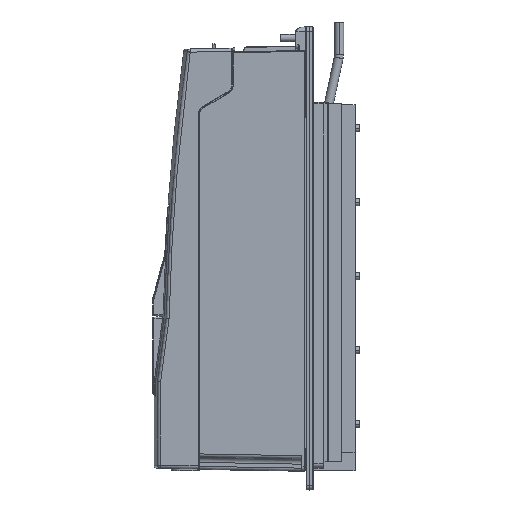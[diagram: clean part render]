
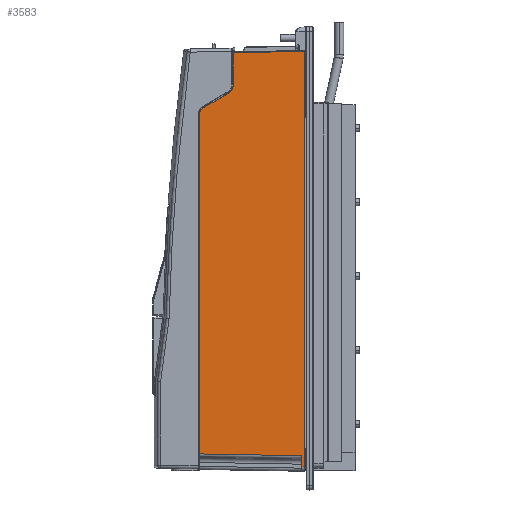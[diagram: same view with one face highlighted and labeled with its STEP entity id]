
A CAD part, left-side view. The second image highlights one B-rep face of the part: STEP entity #3583.
In plain terms, the highlighted planar face has unit normal (-1, 0.018, 0) as drawn and (1, 0.018, 0) by its records, which use the part's own axes.
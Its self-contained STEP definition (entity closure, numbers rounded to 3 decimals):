
#1871 = EDGE_CURVE ( 'NONE', #24986, #71526, #39627, .T. ) ;
#1935 = CARTESIAN_POINT ( 'NONE',  ( 121.15, 120., 471. ) ) ;
#3583 = ADVANCED_FACE ( 'NONE', ( #67645 ), #44236, .F. ) ;
#4487 = CARTESIAN_POINT ( 'NONE',  ( 121.834, 81.804, 41.46 ) ) ;
#9211 = DIRECTION ( 'NONE',  ( -1., -0.018, 0. ) ) ;
#9447 = DIRECTION ( 'NONE',  ( 0., 0., 1. ) ) ;
#12050 = ORIENTED_EDGE ( 'NONE', *, *, #77654, .T. ) ;
#12346 = CARTESIAN_POINT ( 'NONE',  ( 121.834, 81.804, 37.726 ) ) ;
#12573 = DIRECTION ( 'NONE',  ( 0., 0., 1. ) ) ;
#12844 = CARTESIAN_POINT ( 'NONE',  ( 121.834, 81.804, 37.726 ) ) ;
#13945 = CARTESIAN_POINT ( 'NONE',  ( 121.743, 86.904, 46.56 ) ) ;
#14174 = LINE ( 'NONE', #39776, #67352 ) ;
#15056 = EDGE_CURVE ( 'NONE', #71001, #24986, #107118, .T. ) ;
#15152 = CARTESIAN_POINT ( 'NONE',  ( 121.84, 81.5, 37.726 ) ) ;
#17793 = LINE ( 'NONE', #33396, #96337 ) ;
#20299 = EDGE_CURVE ( 'NONE', #44924, #68173, #17793, .T. ) ;
#20953 = VECTOR ( 'NONE', #12573, 1000. ) ;
#22222 = VECTOR ( 'NONE', #34741, 1000. ) ;
#22632 = CARTESIAN_POINT ( 'NONE',  ( 121.241, 114.904, 62.726 ) ) ;
#23706 = ORIENTED_EDGE ( 'NONE', *, *, #26750, .T. ) ;
#24986 = VERTEX_POINT ( 'NONE', #95276 ) ;
#25828 = ORIENTED_EDGE ( 'NONE', *, *, #74163, .T. ) ;
#26467 = DIRECTION ( 'NONE',  ( 0.018, -1., 0. ) ) ;
#26750 = EDGE_CURVE ( 'NONE', #100722, #44924, #42631, .T. ) ;
#26959 = ORIENTED_EDGE ( 'NONE', *, *, #15056, .T. ) ;
#31223 = EDGE_CURVE ( 'NONE', #71001, #68026, #34203, .T. ) ;
#31529 = EDGE_LOOP ( 'NONE', ( #72539, #26959, #43462, #62928, #12050, #85994, #23706, #92431, #25828, #90479, #73682, #73812 ) ) ;
#32850 = VERTEX_POINT ( 'NONE', #71938 ) ;
#32928 = CARTESIAN_POINT ( 'NONE',  ( 121.241, 114.901, 62.724 ) ) ;
#33226 = CARTESIAN_POINT ( 'NONE',  ( 123.213, 4.86, 454.589 ) ) ;
#33396 = CARTESIAN_POINT ( 'NONE',  ( 123.214, 4.804, 471. ) ) ;
#34203 = LINE ( 'NONE', #44172, #48004 ) ;
#34741 = DIRECTION ( 'NONE',  ( 0.018, -1., 0.017 ) ) ;
#36522 = LINE ( 'NONE', #53225, #20953 ) ;
#38089 = VECTOR ( 'NONE', #81336, 1000. ) ;
#39627 = LINE ( 'NONE', #32928, #38089 ) ;
#39776 = CARTESIAN_POINT ( 'NONE',  ( 123.269, 1.704, 471. ) ) ;
#41145 = EDGE_CURVE ( 'NONE', #109923, #32850, #60327, .T. ) ;
#42631 = B_SPLINE_CURVE_WITH_KNOTS ( 'NONE', 3,
 ( #76584, #59378, #101101, #33226, #83869, #43226 ),
 .UNSPECIFIED., .F., .F.,
 ( 4, 2, 4 ),
 ( 0., 0.001, 0.002 ),
 .UNSPECIFIED. ) ;
#43103 = LINE ( 'NONE', #78093, #22222 ) ;
#43226 = CARTESIAN_POINT ( 'NONE',  ( 123.214, 4.804, 455.156 ) ) ;
#43462 = ORIENTED_EDGE ( 'NONE', *, *, #1871, .T. ) ;
#43878 = LINE ( 'NONE', #94522, #90781 ) ;
#44172 = CARTESIAN_POINT ( 'NONE',  ( 121.15, 120., 37.726 ) ) ;
#44236 = PLANE ( 'NONE',  #86315 ) ;
#44568 = CARTESIAN_POINT ( 'NONE',  ( 121.154, 119.804, 71.213 ) ) ;
#44924 = VERTEX_POINT ( 'NONE', #100528 ) ;
#48004 = VECTOR ( 'NONE', #96450, 1000. ) ;
#48553 = CARTESIAN_POINT ( 'NONE',  ( 121.154, 119.804, 451.497 ) ) ;
#48639 = CARTESIAN_POINT ( 'NONE',  ( 121.241, 114.904, 62.726 ) ) ;
#48862 = CARTESIAN_POINT ( 'NONE',  ( 123.269, 1.704, 465.997 ) ) ;
#48989 = CARTESIAN_POINT ( 'NONE',  ( 121.801, 83.67, 44.693 ) ) ;
#51036 = EDGE_CURVE ( 'NONE', #68026, #32850, #65316, .T. ) ;
#51460 = CARTESIAN_POINT ( 'NONE',  ( 120.989, 129.004, 1.902 ) ) ;
#53225 = CARTESIAN_POINT ( 'NONE',  ( 121.154, 119.804, 471. ) ) ;
#53458 = CARTESIAN_POINT ( 'NONE',  ( 123.214, 4.804, 465.943 ) ) ;
#54236 = DIRECTION ( 'NONE',  ( 0., 0., -1. ) ) ;
#54788 = CARTESIAN_POINT ( 'NONE',  ( 121.84, 81.5, 471. ) ) ;
#58119 = DIRECTION ( 'NONE',  ( 0., 0., -1. ) ) ;
#59217 = CARTESIAN_POINT ( 'NONE',  ( 121.154, 119.804, 67.626 ) ) ;
#59378 = CARTESIAN_POINT ( 'NONE',  ( 123.209, 5.102, 453.767 ) ) ;
#59736 = CARTESIAN_POINT ( 'NONE',  ( 121.186, 118.01, 64.519 ) ) ;
#60327 = LINE ( 'NONE', #51460, #90253 ) ;
#62928 = ORIENTED_EDGE ( 'NONE', *, *, #63670, .T. ) ;
#63670 = EDGE_CURVE ( 'NONE', #71526, #80870, #75784, .T. ) ;
#64952 = EDGE_CURVE ( 'NONE', #78451, #109923, #14174, .T. ) ;
#65316 = LINE ( 'NONE', #54788, #68765 ) ;
#67352 = VECTOR ( 'NONE', #58119, 1000. ) ;
#67645 = FACE_OUTER_BOUND ( 'NONE', #31529, .T. ) ;
#68026 = VERTEX_POINT ( 'NONE', #15152 ) ;
#68089 = CARTESIAN_POINT ( 'NONE',  ( 121.154, 119.804, 71.213 ) ) ;
#68173 = VERTEX_POINT ( 'NONE', #53458 ) ;
#68765 = VECTOR ( 'NONE', #54236, 1000. ) ;
#71001 = VERTEX_POINT ( 'NONE', #12346 ) ;
#71526 = VERTEX_POINT ( 'NONE', #48639 ) ;
#71938 = CARTESIAN_POINT ( 'NONE',  ( 121.84, 81.5, 0.99 ) ) ;
#72539 = ORIENTED_EDGE ( 'NONE', *, *, #31223, .F. ) ;
#73682 = ORIENTED_EDGE ( 'NONE', *, *, #41145, .T. ) ;
#73812 = ORIENTED_EDGE ( 'NONE', *, *, #51036, .F. ) ;
#74163 = EDGE_CURVE ( 'NONE', #68173, #78451, #43103, .T. ) ;
#75784 =( BOUNDED_CURVE ( )  B_SPLINE_CURVE ( 3, ( #22632, #59736, #59217, #68089 ),
 .UNSPECIFIED., .F., .F. ) 
 B_SPLINE_CURVE_WITH_KNOTS ( ( 4, 4 ),
 ( 2.094, 3.142 ),
 .UNSPECIFIED. ) 
 CURVE ( )  GEOMETRIC_REPRESENTATION_ITEM ( )  RATIONAL_B_SPLINE_CURVE ( ( 1., 0.911, 0.911, 1. ) ) 
 REPRESENTATION_ITEM ( '' )  );
#76584 = CARTESIAN_POINT ( 'NONE',  ( 123.207, 5.196, 453.497 ) ) ;
#77654 = EDGE_CURVE ( 'NONE', #80870, #108436, #36522, .T. ) ;
#78093 = CARTESIAN_POINT ( 'NONE',  ( 123.275, 1.413, 466.002 ) ) ;
#78451 = VERTEX_POINT ( 'NONE', #48862 ) ;
#80870 = VERTEX_POINT ( 'NONE', #44568 ) ;
#81336 = DIRECTION ( 'NONE',  ( -0.016, 0.866, 0.5 ) ) ;
#83869 = CARTESIAN_POINT ( 'NONE',  ( 123.214, 4.804, 454.869 ) ) ;
#85994 = ORIENTED_EDGE ( 'NONE', *, *, #90400, .T. ) ;
#86180 = DIRECTION ( 'NONE',  ( 0.018, -1., 0.017 ) ) ;
#86315 = AXIS2_PLACEMENT_3D ( 'NONE', #1935, #9211, #26467 ) ;
#89416 = CARTESIAN_POINT ( 'NONE',  ( 123.269, 1.704, -0.542 ) ) ;
#90253 = VECTOR ( 'NONE', #94278, 1000. ) ;
#90400 = EDGE_CURVE ( 'NONE', #108436, #100722, #43878, .T. ) ;
#90479 = ORIENTED_EDGE ( 'NONE', *, *, #64952, .T. ) ;
#90781 = VECTOR ( 'NONE', #86180, 1000. ) ;
#92431 = ORIENTED_EDGE ( 'NONE', *, *, #20299, .T. ) ;
#94278 = DIRECTION ( 'NONE',  ( -0.018, 1., 0.019 ) ) ;
#94522 = CARTESIAN_POINT ( 'NONE',  ( 123.212, 4.939, 453.502 ) ) ;
#94833 = CARTESIAN_POINT ( 'NONE',  ( 123.207, 5.196, 453.497 ) ) ;
#95276 = CARTESIAN_POINT ( 'NONE',  ( 121.743, 86.904, 46.56 ) ) ;
#96337 = VECTOR ( 'NONE', #9447, 1000. ) ;
#96450 = DIRECTION ( 'NONE',  ( 0.018, -1., 0. ) ) ;
#100528 = CARTESIAN_POINT ( 'NONE',  ( 123.214, 4.804, 455.156 ) ) ;
#100722 = VERTEX_POINT ( 'NONE', #94833 ) ;
#101101 = CARTESIAN_POINT ( 'NONE',  ( 123.21, 5.009, 454.037 ) ) ;
#107118 =( BOUNDED_CURVE ( )  B_SPLINE_CURVE ( 3, ( #12844, #4487, #48989, #13945 ),
 .UNSPECIFIED., .F., .T. ) 
 B_SPLINE_CURVE_WITH_KNOTS ( ( 4, 4 ),
 ( 0., 1.047 ),
 .UNSPECIFIED. ) 
 CURVE ( )  GEOMETRIC_REPRESENTATION_ITEM ( )  RATIONAL_B_SPLINE_CURVE ( ( 1., 0.911, 0.911, 1. ) ) 
 REPRESENTATION_ITEM ( '' )  );
#108436 = VERTEX_POINT ( 'NONE', #48553 ) ;
#109923 = VERTEX_POINT ( 'NONE', #89416 ) ;
